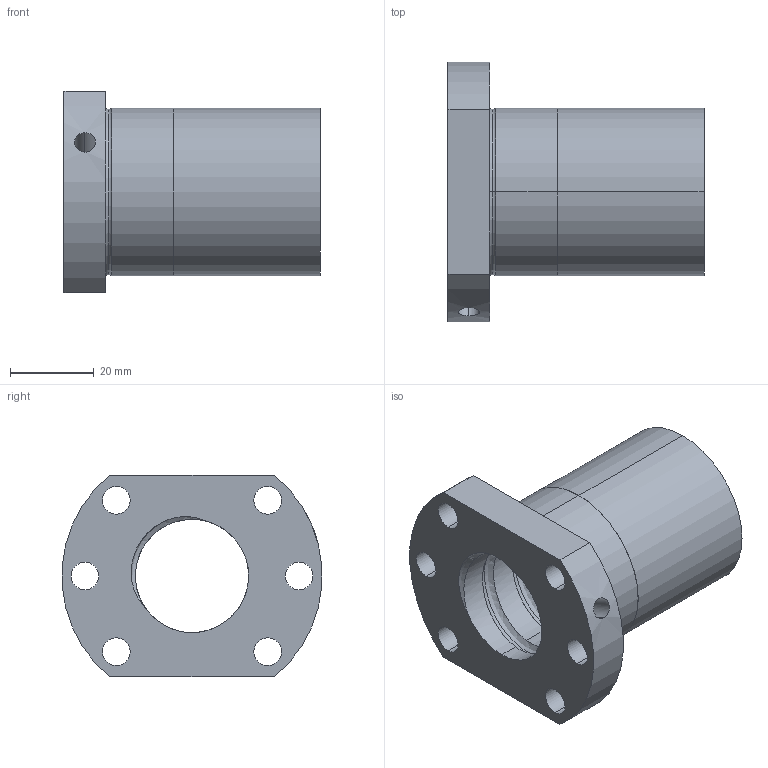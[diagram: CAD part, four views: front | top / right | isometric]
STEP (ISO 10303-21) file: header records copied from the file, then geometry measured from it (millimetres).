
FILE_DESCRIPTION (( 'STEP AP214' ), '1' );
FILE_NAME ('LLE2510-F.STEP', '2020-12-17T06:37:09', ( 'user' ), ( 'datathink' ), 'SwSTEP 2.0', 'SolidWorks 2013', '' );
FILE_SCHEMA (( 'AUTOMOTIVE_DESIGN' ));
Length unit declared in the file: millimetre
Products named in the file (1): LLE2510-F
Bounding box: 61 x 61.8 x 48 mm (x, y, z)
Volume: 51158.6 mm3; surface area: 19320.9 mm2
Topology: 1 solids, 1 shells, 48 faces, 130 edges, 85 vertices
Faces by surface type: cylinder 34, plane 7, torus 4, bspline 3
Entity records: 6096 total; most frequent: CARTESIAN_POINT 4869, ORIENTED_EDGE 260, DIRECTION 232, EDGE_CURVE 130, AXIS2_PLACEMENT_3D 96, VERTEX_POINT 85, EDGE_LOOP 65, CIRCLE 50
